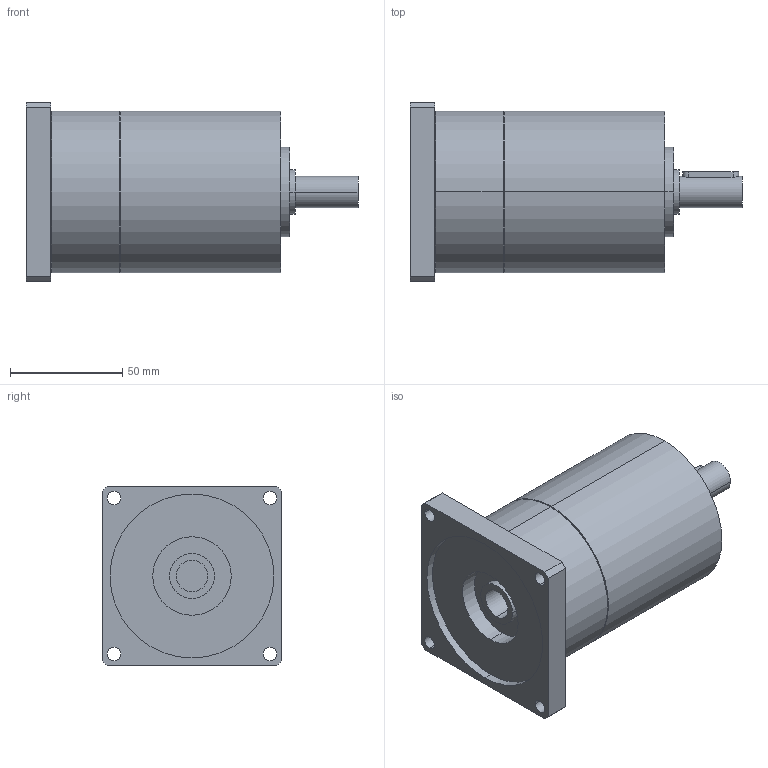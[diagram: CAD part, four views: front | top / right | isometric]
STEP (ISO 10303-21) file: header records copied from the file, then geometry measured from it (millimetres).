
FILE_DESCRIPTION(('CoCreate Modeling STEP Export'),'2;1');
FILE_NAME('GPT75_ig-9-12-16-20-25-28-35-40-50-70-100_14_B14T_14_P06.stp','2014-08-27T13:16:57',(''),(''),'CoCreate Modeling STEP processor for AP214 (Solid Model)','CoCreate Modeling 16.00C 25-Feb-2009 (C) Parametric Technology GmbH','');
FILE_SCHEMA(('AUTOMOTIVE_DESIGN { 1 0 10303 214 1 1 1 1 }'));
Length unit declared in the file: millimetre
Products named in the file (2): GPT75_ig-9-12-16-20-25-28-35-40-50-70-100_14_B14T_14_P06
Assembly tree (1 placements, depth 2):
  GPT75_ig-9-12-16-20-25-28-35-40-50-70-100_14_B14T_14_P06
    GPT75_ig-9-12-16-20-25-28-35-40-50-70-100_14_B14T_14_P06
Bounding box: 148 x 80 x 80 mm (x, y, z)
Volume: 469978.2 mm3; surface area: 46440.2 mm2
Topology: 1 solids, 1 shells, 69 faces, 166 edges, 113 vertices
Faces by surface type: cylinder 42, plane 23, cone 4
Entity records: 2161 total; most frequent: CARTESIAN_POINT 664, ORIENTED_EDGE 332, DIRECTION 262, EDGE_CURVE 166, VERTEX_POINT 113, AXIS2_PLACEMENT_3D 99, EDGE_LOOP 91, FACE_OUTER_BOUND 69
